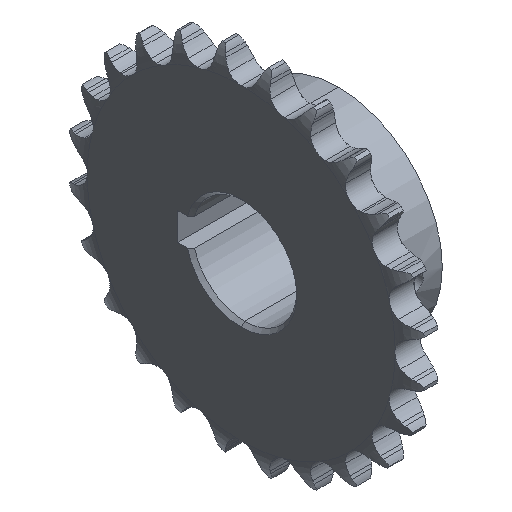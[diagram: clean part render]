
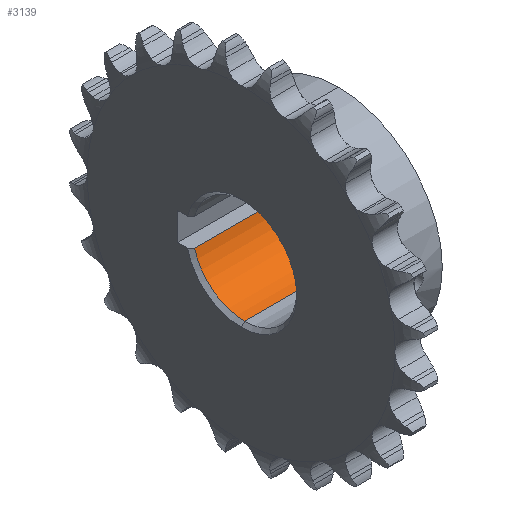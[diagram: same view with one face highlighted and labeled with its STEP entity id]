
A CAD part, isometric view. The second image highlights one B-rep face of the part: STEP entity #3139.
In plain terms, the highlighted cylindrical face has radius 15 mm (diameter 30 mm), a partial arc.
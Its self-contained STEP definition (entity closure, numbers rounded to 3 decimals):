
#152 = LINE ( 'NONE', #7515, #2034 ) ;
#600 = EDGE_CURVE ( 'NONE', #4954, #4697, #4589, .T. ) ;
#691 = ORIENTED_EDGE ( 'NONE', *, *, #600, .T. ) ;
#699 = DIRECTION ( 'NONE',  ( 0., 0., 1. ) ) ;
#1247 = AXIS2_PLACEMENT_3D ( 'NONE', #9325, #3014, #2915 ) ;
#1387 = CIRCLE ( 'NONE', #3892, 15. ) ;
#2034 = VECTOR ( 'NONE', #4914, 1000. ) ;
#2183 = ORIENTED_EDGE ( 'NONE', *, *, #6038, .F. ) ;
#2327 = FACE_OUTER_BOUND ( 'NONE', #8039, .T. ) ;
#2424 = CARTESIAN_POINT ( 'NONE',  ( 23.396, 0., 0. ) ) ;
#2915 = DIRECTION ( 'NONE',  ( 0., 0., -1. ) ) ;
#3014 = DIRECTION ( 'NONE',  ( -1., 0., 0. ) ) ;
#3055 = DIRECTION ( 'NONE',  ( -1., 0., 0. ) ) ;
#3139 = ADVANCED_FACE ( 'NONE', ( #2327 ), #8695, .F. ) ;
#3485 = LINE ( 'NONE', #8309, #5862 ) ;
#3892 = AXIS2_PLACEMENT_3D ( 'NONE', #2424, #4676, #699 ) ;
#4473 = CARTESIAN_POINT ( 'NONE',  ( 23.396, 14.457, -4. ) ) ;
#4589 = CIRCLE ( 'NONE', #1247, 15. ) ;
#4621 = VERTEX_POINT ( 'NONE', #7437 ) ;
#4676 = DIRECTION ( 'NONE',  ( 1., 0., 0. ) ) ;
#4697 = VERTEX_POINT ( 'NONE', #5917 ) ;
#4835 = DIRECTION ( 'NONE',  ( 0., 0., 1. ) ) ;
#4914 = DIRECTION ( 'NONE',  ( -1., 0., 0. ) ) ;
#4954 = VERTEX_POINT ( 'NONE', #8000 ) ;
#5140 = EDGE_CURVE ( 'NONE', #6580, #4954, #3485, .T. ) ;
#5560 = CARTESIAN_POINT ( 'NONE',  ( -6.35, 0., 0. ) ) ;
#5862 = VECTOR ( 'NONE', #6835, 1000. ) ;
#5917 = CARTESIAN_POINT ( 'NONE',  ( -2.604, 0., -15. ) ) ;
#6038 = EDGE_CURVE ( 'NONE', #4621, #4697, #152, .T. ) ;
#6237 = AXIS2_PLACEMENT_3D ( 'NONE', #5560, #3055, #4835 ) ;
#6580 = VERTEX_POINT ( 'NONE', #4473 ) ;
#6654 = EDGE_CURVE ( 'NONE', #4621, #6580, #1387, .T. ) ;
#6835 = DIRECTION ( 'NONE',  ( -1., 0., 0. ) ) ;
#6915 = ORIENTED_EDGE ( 'NONE', *, *, #5140, .T. ) ;
#7437 = CARTESIAN_POINT ( 'NONE',  ( 23.396, 0., -15. ) ) ;
#7515 = CARTESIAN_POINT ( 'NONE',  ( -6.35, 0., -15. ) ) ;
#8000 = CARTESIAN_POINT ( 'NONE',  ( -2.604, 14.457, -4. ) ) ;
#8039 = EDGE_LOOP ( 'NONE', ( #2183, #8336, #6915, #691 ) ) ;
#8309 = CARTESIAN_POINT ( 'NONE',  ( -6.35, 14.457, -4. ) ) ;
#8336 = ORIENTED_EDGE ( 'NONE', *, *, #6654, .T. ) ;
#8695 = CYLINDRICAL_SURFACE ( 'NONE', #6237, 15. ) ;
#9325 = CARTESIAN_POINT ( 'NONE',  ( -2.604, 0., 0. ) ) ;
